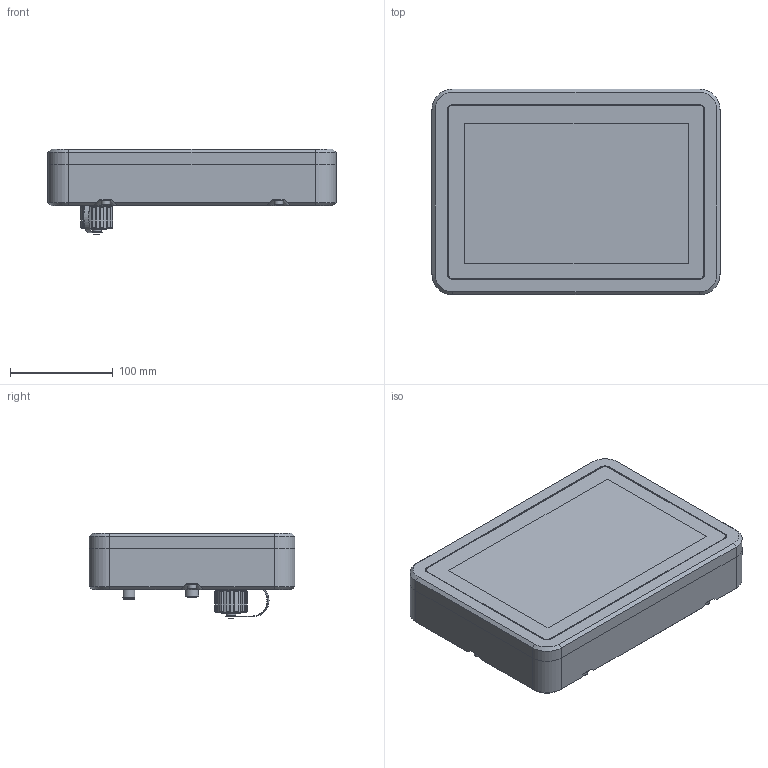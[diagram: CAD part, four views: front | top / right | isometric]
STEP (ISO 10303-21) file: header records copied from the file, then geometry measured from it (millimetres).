
FILE_DESCRIPTION(/* description */ (''),/* implementation_level */ '2;1');
FILE_NAME(/* name */ 'C:\SAPInventorWork\778-61998-00_EXTERN.stp',/* time_stamp */ '2023-10-26T10:17:07+02:00',/* author */ ('Aiple'),/* organization */ (''),/* preprocessor_version */ 'ST-DEVELOPER v18.1',/* originating_system */ 'Autodesk Inventor 2021',/* authorisation */ '');
FILE_SCHEMA (('AUTOMOTIVE_DESIGN { 1 0 10303 214 3 1 1 }'));
Products named in the file (1): 778-61998-00
Bounding box: 280 x 200 x 83.4 mm (x, y, z)
Volume: 3023875.5 mm3; surface area: 178052 mm2
Topology: 1 solids, 17 shells, 5413 faces, 14482 edges, 9515 vertices
Faces by surface type: plane 3253, bspline 1395, cylinder 566, cone 120, torus 72, sphere 7
Full cylindrical faces by diameter (mm): 1.1 x5, 1.2 x3, 1.5 x4, 1.839 x1, 2.55 x3, 4.134 x5, 5 x6, 5.1 x6, 5.5 x1, 6.1 x1, 8.5 x6, 9 x1, 10 x1, 10.35 x6, 10.4 x1, 10.75 x1, 12 x2, 15.2 x1, 15.5 x1, 19 x1, 20 x1, 22 x1, 22.5 x1, 23 x2, 24.52 x1, 24.9 x1, 28 x1, 30 x2
Entity records: 187184 total; most frequent: CARTESIAN_POINT 58605, ORIENTED_EDGE 28942, DIRECTION 20634, EDGE_CURVE 14471, LINE 9974, VECTOR 9974, VERTEX_POINT 9515, EDGE_LOOP 5924
